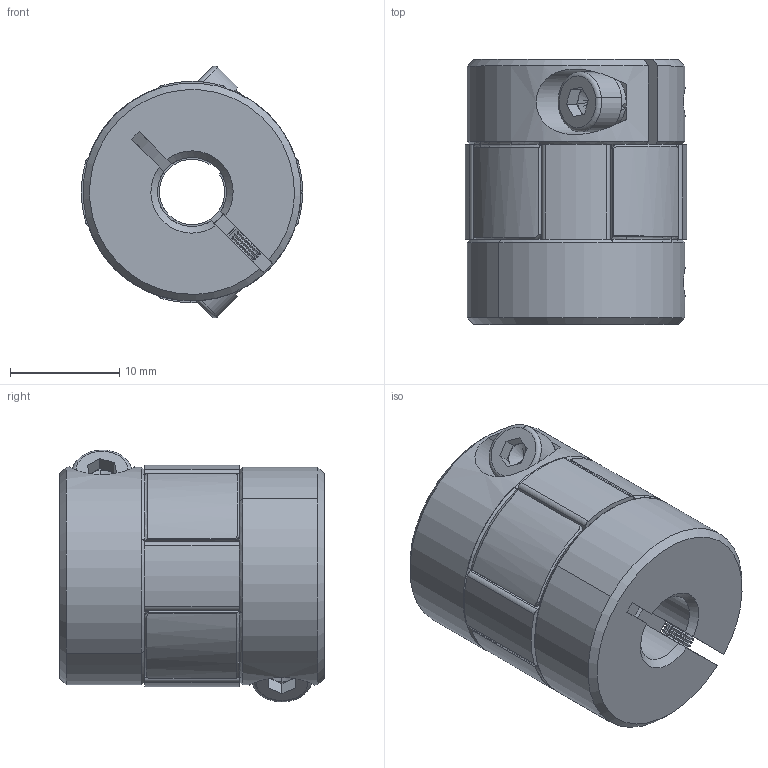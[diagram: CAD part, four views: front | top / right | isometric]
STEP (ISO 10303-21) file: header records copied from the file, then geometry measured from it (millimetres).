
FILE_DESCRIPTION (( 'STEP AP203' ), '1' );
FILE_NAME ('LF-B-D20L25-6-6.35.STEP', '2021-10-20T01:27:12', ( '' ), ( '' ), 'SwSTEP 2.0', 'SolidWorks 2018', '' );
FILE_SCHEMA (( 'CONFIG_CONTROL_DESIGN' ));
Length unit declared in the file: millimetre
Products named in the file (1): LF-B-D20L25-6-6.35
Bounding box: 20.31 x 24.3 x 23.09 mm (x, y, z)
Volume: 6570.4 mm3; surface area: 3571.4 mm2
Topology: 1 solids, 1 shells, 431 faces, 1076 edges, 637 vertices
Faces by surface type: cylinder 167, cone 158, plane 94, torus 12
Entity records: 13178 total; most frequent: CARTESIAN_POINT 2731, DIRECTION 2331, ORIENTED_EDGE 2144, EDGE_CURVE 1072, AXIS2_PLACEMENT_3D 959, VERTEX_POINT 637, CIRCLE 527, EDGE_LOOP 447
